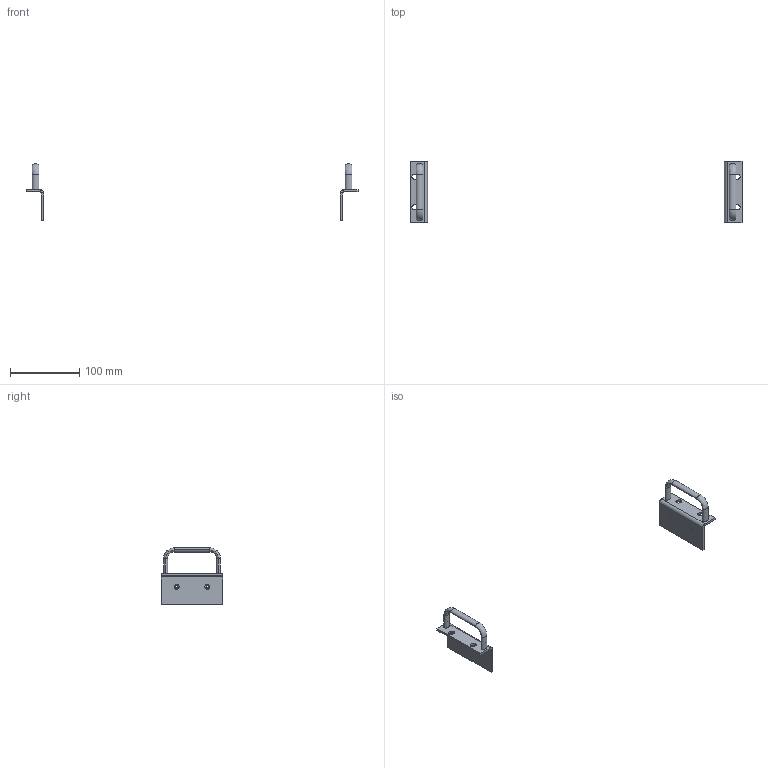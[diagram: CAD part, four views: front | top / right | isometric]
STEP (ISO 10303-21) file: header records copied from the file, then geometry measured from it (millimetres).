
FILE_DESCRIPTION (( 'STEP AP214' ), '1' );
FILE_NAME ('RM-1.STEP', '2023-04-25T14:15:33', ( '' ), ( '' ), 'SwSTEP 2.0', 'SolidWorks 2020', '' );
FILE_SCHEMA (( 'AUTOMOTIVE_DESIGN' ));
Length unit declared in the file: inch
Products named in the file (1): RM-1
Bounding box: 480.57 x 88.65 x 81.83 mm (x, y, z)
Volume: 47809.1 mm3; surface area: 32501.7 mm2
Topology: 4 solids, 4 shells, 120 faces, 280 edges, 164 vertices
Faces by surface type: cylinder 40, plane 36, cone 24, bspline 20
Entity records: 5129 total; most frequent: CARTESIAN_POINT 833, DIRECTION 554, ORIENTED_EDGE 544, EDGE_CURVE 272, AXIS2_PLACEMENT_3D 205, VERTEX_POINT 164, EDGE_LOOP 148, VECTOR 144
